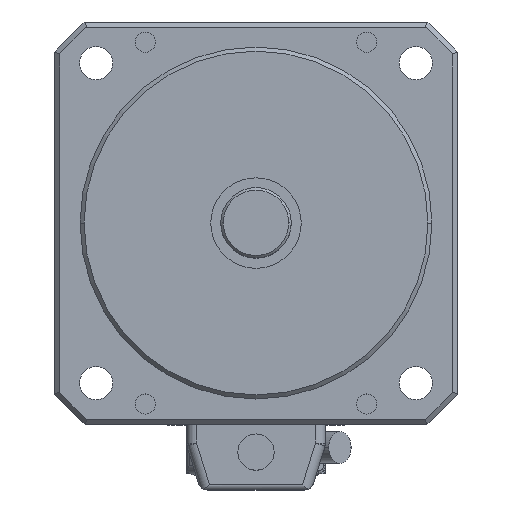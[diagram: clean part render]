
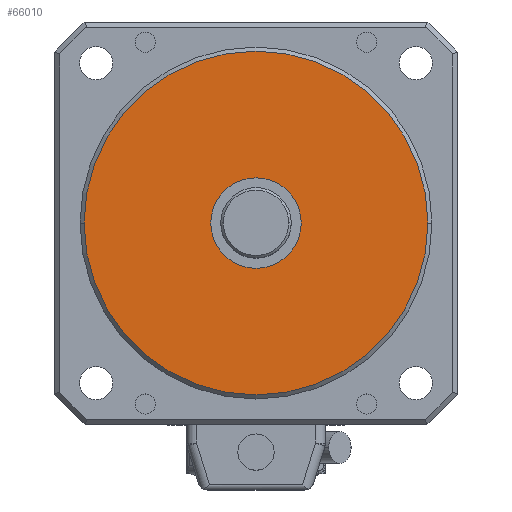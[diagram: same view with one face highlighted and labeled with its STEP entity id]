
A CAD part, top view. The second image highlights one B-rep face of the part: STEP entity #66010.
In plain terms, the highlighted planar face has unit normal (0, 0, 1) as drawn and (0, 0, -1) by its records, which use the part's own axes.
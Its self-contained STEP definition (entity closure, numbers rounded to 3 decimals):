
#65530=CARTESIAN_POINT('',(-34.2,0.,31.5));
#65540=VERTEX_POINT('',#65530);
#65620=CARTESIAN_POINT('',(34.2,0.,31.5));
#65630=VERTEX_POINT('',#65620);
#65660=CARTESIAN_POINT('',(0.,0.,31.5));
#65670=DIRECTION('',(0.,0.,-1.));
#65680=DIRECTION('',(-1.,0.,0.));
#65690=AXIS2_PLACEMENT_3D('',#65660,#65670,#65680);
#65700=CIRCLE('',#65690,34.2);
#65710=EDGE_CURVE('',#65630,#65540,#65700,.T.);
#65760=CARTESIAN_POINT('',(-37.75,0.,31.5));
#65770=DIRECTION('',(0.,0.,-1.));
#65780=DIRECTION('',(-1.,0.,0.));
#65790=AXIS2_PLACEMENT_3D('',#65760,#65770,#65780);
#65800=PLANE('',#65790);
#65810=CARTESIAN_POINT('',(0.,0.,31.5));
#65820=DIRECTION('',(0.,0.,-1.));
#65830=DIRECTION('',(-1.,0.,0.));
#65840=AXIS2_PLACEMENT_3D('',#65810,#65820,#65830);
#65850=CIRCLE('',#65840,9.);
#65860=CARTESIAN_POINT('',(-9.,0.,31.5));
#65870=VERTEX_POINT('',#65860);
#65880=CARTESIAN_POINT('',(9.,0.,31.5));
#65890=VERTEX_POINT('',#65880);
#65900=EDGE_CURVE('',#65870,#65890,#65850,.T.);
#65910=ORIENTED_EDGE('',*,*,#65900,.F.);
#65920=EDGE_CURVE('',#65890,#65870,#65850,.T.);
#65930=ORIENTED_EDGE('',*,*,#65920,.F.);
#65940=EDGE_LOOP('',(#65930,#65910));
#65950=FACE_BOUND('',#65940,.T.);
#65960=EDGE_CURVE('',#65540,#65630,#65700,.T.);
#65970=ORIENTED_EDGE('',*,*,#65960,.T.);
#65980=ORIENTED_EDGE('',*,*,#65710,.T.);
#65990=EDGE_LOOP('',(#65980,#65970));
#66000=FACE_OUTER_BOUND('',#65990,.T.);
#66010=ADVANCED_FACE('',(#65950,#66000),#65800,.T.);
